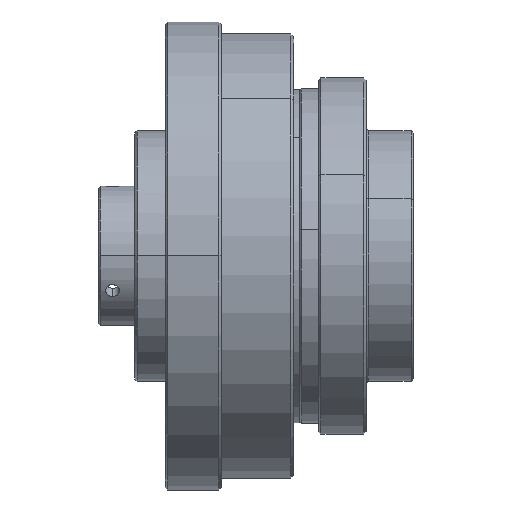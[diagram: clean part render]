
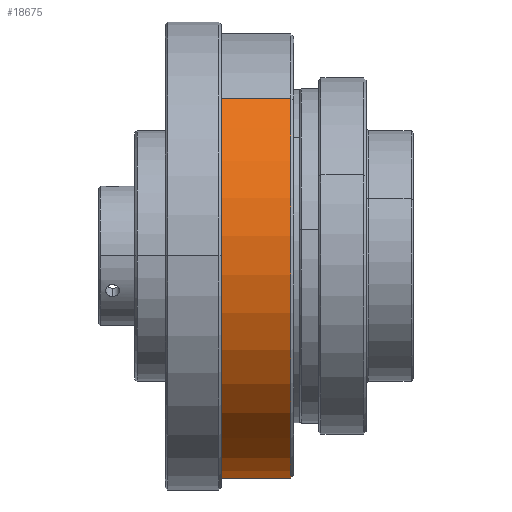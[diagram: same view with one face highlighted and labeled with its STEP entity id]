
A CAD part, top view. The second image highlights one B-rep face of the part: STEP entity #18675.
In plain terms, the highlighted cylindrical face has radius 40 mm (diameter 80 mm), a partial arc.
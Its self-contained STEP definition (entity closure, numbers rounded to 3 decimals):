
#352 = CARTESIAN_POINT ( 'NONE',  ( -93.814, -28.284, -28.284 ) ) ;
#397 = VERTEX_POINT ( 'NONE', #16879 ) ;
#576 = ORIENTED_EDGE ( 'NONE', *, *, #3073, .T. ) ;
#644 = CARTESIAN_POINT ( 'NONE',  ( -93.814, 0., 0. ) ) ;
#1021 = AXIS2_PLACEMENT_3D ( 'NONE', #14570, #17403, #5554 ) ;
#3035 = DIRECTION ( 'NONE',  ( 1., 0., 0. ) ) ;
#3073 = EDGE_CURVE ( 'NONE', #3870, #6388, #9540, .T. ) ;
#3870 = VERTEX_POINT ( 'NONE', #7420 ) ;
#5366 = CIRCLE ( 'NONE', #1021, 40. ) ;
#5554 = DIRECTION ( 'NONE',  ( 0., 0.707, 0.707 ) ) ;
#5849 = EDGE_CURVE ( 'NONE', #397, #3870, #5366, .T. ) ;
#6388 = VERTEX_POINT ( 'NONE', #14427 ) ;
#7075 = VECTOR ( 'NONE', #8547, 1000. ) ;
#7420 = CARTESIAN_POINT ( 'NONE',  ( -22., 28.284, 28.284 ) ) ;
#7800 = ORIENTED_EDGE ( 'NONE', *, *, #19120, .F. ) ;
#7947 = AXIS2_PLACEMENT_3D ( 'NONE', #12866, #3035, #14529 ) ;
#8547 = DIRECTION ( 'NONE',  ( -1., 0., 0. ) ) ;
#8706 = ORIENTED_EDGE ( 'NONE', *, *, #5849, .T. ) ;
#8846 = DIRECTION ( 'NONE',  ( -1., 0., 0. ) ) ;
#9540 = LINE ( 'NONE', #15174, #18264 ) ;
#9578 = EDGE_LOOP ( 'NONE', ( #7800, #8706, #576, #15208 ) ) ;
#10187 = AXIS2_PLACEMENT_3D ( 'NONE', #644, #8846, #20337 ) ;
#10397 = CARTESIAN_POINT ( 'NONE',  ( -37., -28.284, -28.284 ) ) ;
#10978 = FACE_OUTER_BOUND ( 'NONE', #9578, .T. ) ;
#12866 = CARTESIAN_POINT ( 'NONE',  ( -37., 0., 0. ) ) ;
#14004 = EDGE_CURVE ( 'NONE', #6388, #14267, #19582, .T. ) ;
#14267 = VERTEX_POINT ( 'NONE', #10397 ) ;
#14427 = CARTESIAN_POINT ( 'NONE',  ( -37., 28.284, 28.284 ) ) ;
#14529 = DIRECTION ( 'NONE',  ( 0., -0.707, -0.707 ) ) ;
#14570 = CARTESIAN_POINT ( 'NONE',  ( -22., 0., 0. ) ) ;
#14760 = DIRECTION ( 'NONE',  ( -1., 0., 0. ) ) ;
#15174 = CARTESIAN_POINT ( 'NONE',  ( -93.814, 28.284, 28.284 ) ) ;
#15208 = ORIENTED_EDGE ( 'NONE', *, *, #14004, .T. ) ;
#16879 = CARTESIAN_POINT ( 'NONE',  ( -22., -28.284, -28.284 ) ) ;
#17403 = DIRECTION ( 'NONE',  ( -1., 0., 0. ) ) ;
#18264 = VECTOR ( 'NONE', #14760, 1000. ) ;
#18675 = ADVANCED_FACE ( 'NONE', ( #10978 ), #19195, .T. ) ;
#19120 = EDGE_CURVE ( 'NONE', #397, #14267, #20193, .T. ) ;
#19195 = CYLINDRICAL_SURFACE ( 'NONE', #10187, 40. ) ;
#19582 = CIRCLE ( 'NONE', #7947, 40. ) ;
#20193 = LINE ( 'NONE', #352, #7075 ) ;
#20337 = DIRECTION ( 'NONE',  ( 0., 0.707, 0.707 ) ) ;
